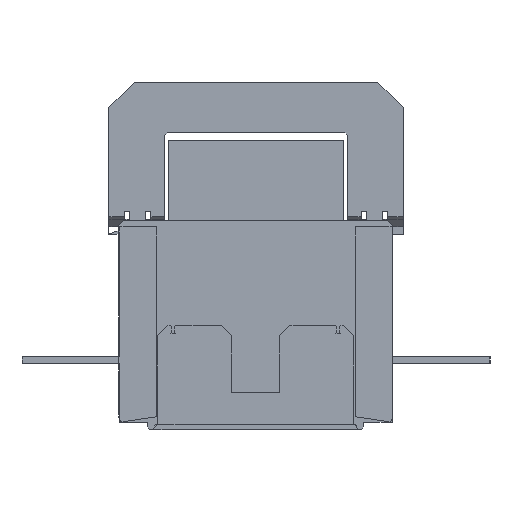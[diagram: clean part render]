
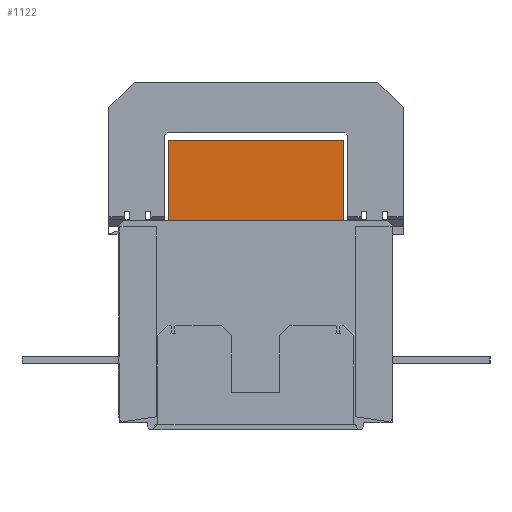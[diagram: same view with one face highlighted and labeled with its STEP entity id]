
A CAD part, front view. The second image highlights one B-rep face of the part: STEP entity #1122.
In plain terms, the highlighted planar face has unit normal (0, -1, 0).
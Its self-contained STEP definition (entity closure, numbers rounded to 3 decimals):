
#1122=ADVANCED_FACE('',(#1593),#8535,.T.);
#1593=FACE_OUTER_BOUND('',#2064,.T.);
#2064=EDGE_LOOP('',(#4545,#4546,#4547,#4548));
#4545=ORIENTED_EDGE('',*,*,#6203,.T.);
#4546=ORIENTED_EDGE('',*,*,#6202,.F.);
#4547=ORIENTED_EDGE('',*,*,#6200,.F.);
#4548=ORIENTED_EDGE('',*,*,#6198,.F.);
#6198=EDGE_CURVE('',#8173,#8172,#7215,.T.);
#6200=EDGE_CURVE('',#8172,#8174,#7217,.T.);
#6202=EDGE_CURVE('',#8174,#8175,#7219,.T.);
#6203=EDGE_CURVE('',#8173,#8175,#7220,.T.);
#7215=B_SPLINE_CURVE_WITH_KNOTS('',1,(#14744,#14745),.UNSPECIFIED.,.F.,
 .F.,(2,2),(0.,17.),.UNSPECIFIED.);
#7217=B_SPLINE_CURVE_WITH_KNOTS('',1,(#14748,#14749),.UNSPECIFIED.,.F.,
 .F.,(2,2),(17.,51.5),.UNSPECIFIED.);
#7219=B_SPLINE_CURVE_WITH_KNOTS('',1,(#14752,#14753),.UNSPECIFIED.,.F.,
 .F.,(2,2),(-8.5,8.5),.UNSPECIFIED.);
#7220=B_SPLINE_CURVE_WITH_KNOTS('',1,(#14754,#14755),.UNSPECIFIED.,.F.,
 .F.,(2,2),(-103.,-68.5),.UNSPECIFIED.);
#8172=VERTEX_POINT('',#14728);
#8173=VERTEX_POINT('',#14729);
#8174=VERTEX_POINT('',#14730);
#8175=VERTEX_POINT('',#14731);
#8535=PLANE('',#8902);
#8902=AXIS2_PLACEMENT_3D('',#14723,#9183,$);
#9183=DIRECTION('',(0.,-1.,0.));
#14723=CARTESIAN_POINT('',(-21.31,-699.729,24.583));
#14728=CARTESIAN_POINT('',(17.25,-699.729,5.274));
#14729=CARTESIAN_POINT('',(17.25,-699.729,22.274));
#14730=CARTESIAN_POINT('',(-17.25,-699.729,5.274));
#14731=CARTESIAN_POINT('',(-17.25,-699.729,22.274));
#14744=CARTESIAN_POINT('',(17.25,-699.729,22.274));
#14745=CARTESIAN_POINT('',(17.25,-699.729,5.274));
#14748=CARTESIAN_POINT('',(17.25,-699.729,5.274));
#14749=CARTESIAN_POINT('',(-17.25,-699.729,5.274));
#14752=CARTESIAN_POINT('',(-17.25,-699.729,5.274));
#14753=CARTESIAN_POINT('',(-17.25,-699.729,22.274));
#14754=CARTESIAN_POINT('',(17.25,-699.729,22.274));
#14755=CARTESIAN_POINT('',(-17.25,-699.729,22.274));
